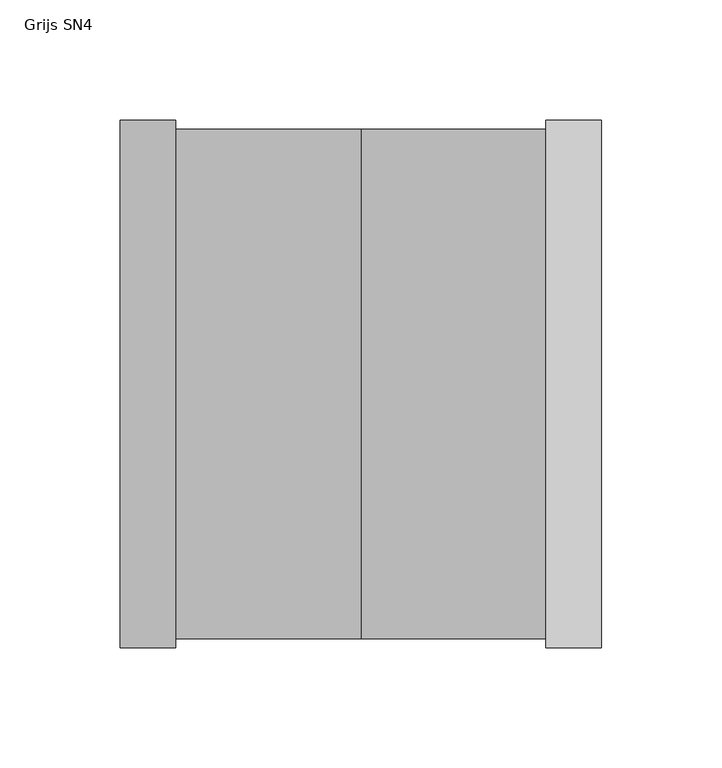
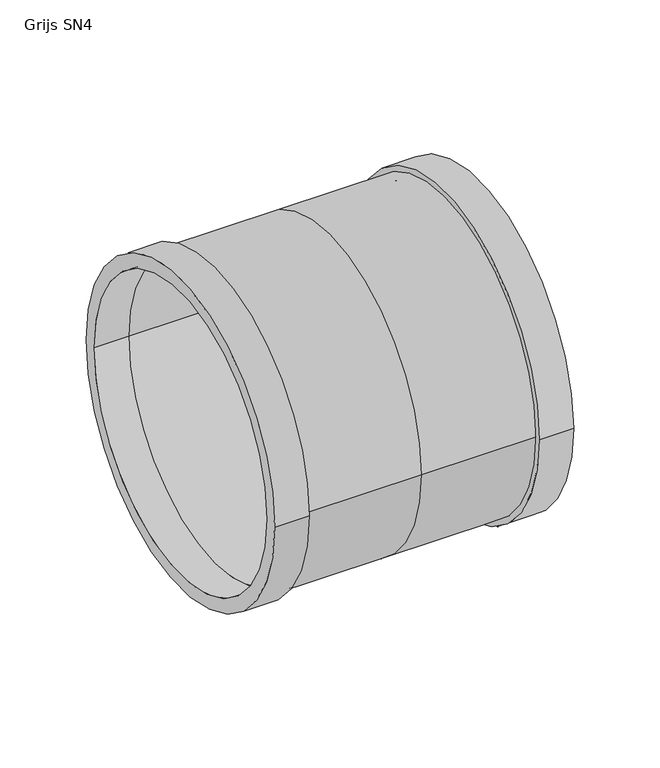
"""IFC4 building model written with IfcOpenShell, lengths in millimetres: pipe fitting geometry, NLRS_52_PIF_UN_SN4 SN8 flexibele steekmof 2MV (multiport)_Dyka : Grijs SN4."""

from ifc_helpers import new_model, si_unit, point, frame, origin, origin_2d, place, context, project, spatial, polyline, circle_curve, trimmed, segment, composite_curve, outline, extrude, source, transform, mapped, element, save
from ifc_brep_helpers import plane_surface, cylinder_surface, revolved_surface, advanced_brep


def grijs_sn4_73696f53(model_context):
    return source(origin(), model_context, "Body", "SolidModel", [
        extrude(outline(composite_curve([segment(trimmed(circle_curve(origin_2d(), 109.5), [point((109.5, 0.0))], [point((-109.5, 0.0))], False, "CARTESIAN"), True, "CONTINUOUS"), segment(trimmed(circle_curve(origin_2d(), 109.5), [point((-109.5, 0.0))], [point((109.5, 0.0))], False, "CARTESIAN"), True, "CONTINUOUS")], self_intersect=False), holes=[composite_curve([segment(trimmed(circle_curve(origin_2d(), 100.0), [point((100.0, 0.0))], [point((-100.0, 0.0))], True, "CARTESIAN"), True, "CONTINUOUS"), segment(trimmed(circle_curve(origin_2d(), 100.0), [point((-100.0, 0.0))], [point((100.0, 0.0))], True, "CARTESIAN"), True, "CONTINUOUS")], self_intersect=False)]), frame((77.0, 0.0, 0.0), z_axis=(1.0, 0.0, 0.0), x_axis=(0.0, 1.0, 0.0)), (0.0, 0.0, 1.0), 23.0),
        extrude(outline(composite_curve([segment(trimmed(circle_curve(origin_2d(), 109.5), [point((-109.5, 0.0))], [point((109.5, 0.0))], False, "CARTESIAN"), True, "CONTINUOUS"), segment(trimmed(circle_curve(origin_2d(), 109.5), [point((109.5, 0.0))], [point((-109.5, 0.0))], False, "CARTESIAN"), True, "CONTINUOUS")], self_intersect=False), holes=[composite_curve([segment(trimmed(circle_curve(origin_2d(), 100.0), [point((-100.0, 0.0))], [point((100.0, 0.0))], True, "CARTESIAN"), True, "CONTINUOUS"), segment(trimmed(circle_curve(origin_2d(), 100.0), [point((100.0, 0.0))], [point((-100.0, 0.0))], True, "CARTESIAN"), True, "CONTINUOUS")], self_intersect=False)]), frame((-100.0, 0.0, 0.0), z_axis=(1.0, 0.0, 0.0), x_axis=(0.0, 1.0, 0.0)), (0.0, 0.0, 1.0), 23.0),
        advanced_brep(
        [(0.0, -100.0, 0.0), (0.0, 100.0, 0.0), (-77.0, 100.0, 0.0), (-77.0, -100.0, 0.0), (0.0, -105.9, 0.0), (0.0, 105.9, 0.0), (-77.0, 105.9, 0.0), (-77.0, -105.9, 0.0), (77.0, -100.0, 0.0), (77.0, 100.0, 0.0), (77.0, -105.9, 0.0), (77.0, 105.9, 0.0)],
        [
            (0, 1, circle_curve(frame((0.0, 0.0, 0.0), z_axis=(1.0, 0.0, 0.0), x_axis=(0.0, 1.0, 0.0)), 100.0)),
            (1, 2),
            (2, 3, circle_curve(frame((-77.0, 0.0, 0.0), z_axis=(-1.0, 0.0, 0.0), x_axis=(0.0, 1.0, 0.0)), 100.0)),
            (3, 0),
            (1, 0, circle_curve(frame((0.0, 0.0, 0.0), z_axis=(1.0, 0.0, 0.0), x_axis=(0.0, 1.0, 0.0)), 100.0)),
            (3, 2, circle_curve(frame((-77.0, 0.0, 0.0), z_axis=(-1.0, 0.0, 0.0), x_axis=(0.0, 1.0, 0.0)), 100.0)),
            (4, 5, circle_curve(frame((0.0, 0.0, 0.0), z_axis=(-1.0, 0.0, 0.0), x_axis=(0.0, 1.0, 0.0)), 105.9)),
            (5, 6),
            (6, 7, circle_curve(frame((-77.0, 0.0, 0.0), z_axis=(1.0, 0.0, 0.0), x_axis=(0.0, 1.0, 0.0)), 105.9)),
            (7, 4),
            (5, 4, circle_curve(frame((0.0, 0.0, 0.0), z_axis=(-1.0, 0.0, 0.0), x_axis=(0.0, 1.0, 0.0)), 105.9)),
            (7, 6, circle_curve(frame((-77.0, 0.0, 0.0), z_axis=(1.0, 0.0, 0.0), x_axis=(0.0, 1.0, 0.0)), 105.9)),
            (0, 8),
            (8, 9, circle_curve(frame((77.0, 0.0, 0.0), z_axis=(1.0, 0.0, 0.0), x_axis=(0.0, 1.0, 0.0)), 100.0)),
            (9, 1),
            (9, 8, circle_curve(frame((77.0, 0.0, 0.0), z_axis=(1.0, 0.0, 0.0), x_axis=(0.0, 1.0, 0.0)), 100.0)),
            (4, 10),
            (10, 11, circle_curve(frame((77.0, 0.0, 0.0), z_axis=(-1.0, 0.0, 0.0), x_axis=(0.0, 1.0, 0.0)), 105.9)),
            (11, 5),
            (11, 10, circle_curve(frame((77.0, 0.0, 0.0), z_axis=(-1.0, 0.0, 0.0), x_axis=(0.0, 1.0, 0.0)), 105.9)),
        ],
        [
            revolved_surface(polyline([(0.0, 100.0, 0.0), (-77.0, 100.0, 0.0)]), (-200.0, 0.0, 0.0), (1.0, 0.0, 0.0)),
            cylinder_surface(frame((-200.0, 0.0, 0.0), z_axis=(-1.0, 0.0, 0.0), x_axis=(0.0, 1.0, 0.0)), 105.9),
            revolved_surface(polyline([(77.0, 100.0, 0.0), (0.0, 100.0, 0.0)]), (0.0, 0.0, 0.0), (1.0, 0.0, 0.0)),
            cylinder_surface(frame((0.0, 0.0, 0.0), z_axis=(-1.0, 0.0, 0.0), x_axis=(0.0, 1.0, 0.0)), 105.9),
            plane_surface(frame((-77.0, 105.9, 0.0), z_axis=(-1.0, 0.0, 0.0), x_axis=(0.0, 0.0, 1.0))),
            plane_surface(frame((77.0, -105.9, 0.0), z_axis=(1.0, 0.0, 0.0), x_axis=(0.0, 0.0, 1.0))),
        ],
        [
            (0, [[1, 2, 3, 4]]),
            (0, [[5, -4, 6, -2]]),
            (1, [[7, 8, 9, 10]]),
            (1, [[11, -10, 12, -8]]),
            (2, [[-1, 13, 14, 15]]),
            (2, [[-5, -15, 16, -13]]),
            (3, [[-7, 17, 18, 19]]),
            (3, [[-11, -19, 20, -17]]),
            (4, [[-9, -12], [-3, -6]]),
            (5, [[-18, -20], [-14, -16]]),
        ],
    ),
    ])


if __name__ == "__main__":
    model = new_model("IFC4")
    model_context = context("Model", 3, world=origin())
    ifc_project = project(units=[si_unit("LENGTHUNIT", "METRE", prefix="MILLI")], contexts=[model_context])
    site = spatial("IfcSite", under=ifc_project)
    building = spatial("IfcBuilding", under=site)
    placement = place(None, origin())
    grijs_sn4_shape = grijs_sn4_73696f53(model_context)
    element("IfcPipeFitting", 1, ObjectType="NLRS_52_PIF_UN_SN4 SN8 flexibele steekmof 2MV (multiport)_Dyka : Grijs SN4", at=placement, inside=building, context=model_context, shape_type="MappedRepresentation", body=[
        mapped(grijs_sn4_shape, transform((0.0, 0.0, 0.0), x_axis=(1.0, 0.0, 0.0), y_axis=(0.0, 1.0, 0.0), z_axis=(0.0, 0.0, 1.0))),
    ])
    save(model, "model.ifc")
